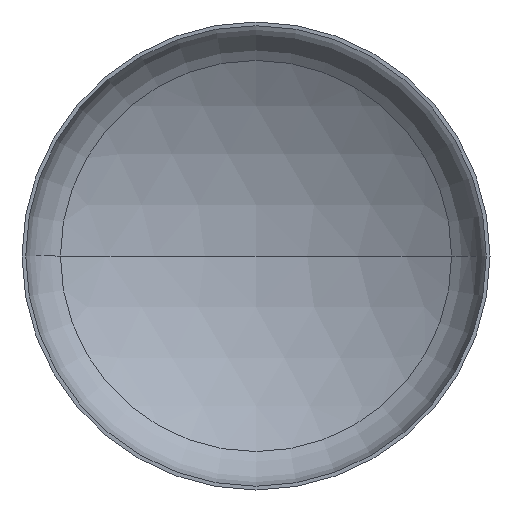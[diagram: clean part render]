
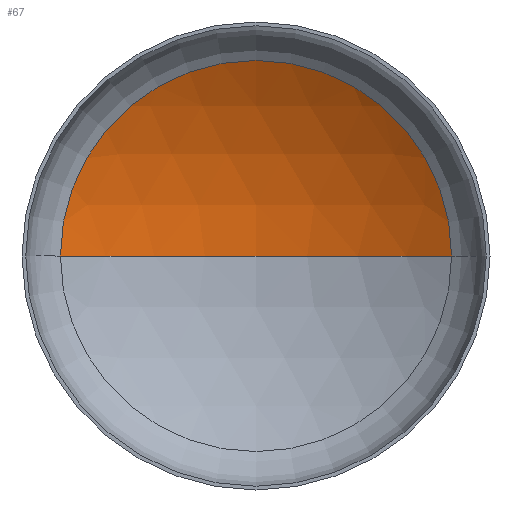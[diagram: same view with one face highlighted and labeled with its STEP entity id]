
A CAD part, front view. The second image highlights one B-rep face of the part: STEP entity #67.
In plain terms, the highlighted spherical face has radius 1600 mm.
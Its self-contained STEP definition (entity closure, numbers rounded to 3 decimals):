
#6 = VERTEX_POINT ( 'NONE', #275 ) ;
#16 = EDGE_LOOP ( 'NONE', ( #108, #59, #27 ) ) ;
#17 = VERTEX_POINT ( 'NONE', #252 ) ;
#27 = ORIENTED_EDGE ( 'NONE', *, *, #347, .T. ) ;
#38 = AXIS2_PLACEMENT_3D ( 'NONE', #363, #311, #153 ) ;
#59 = ORIENTED_EDGE ( 'NONE', *, *, #388, .T. ) ;
#61 = VERTEX_POINT ( 'NONE', #260 ) ;
#67 = ADVANCED_FACE ( 'NONE', ( #148 ), #286, .F. ) ;
#108 = ORIENTED_EDGE ( 'NONE', *, *, #383, .F. ) ;
#136 = CIRCLE ( 'NONE', #381, 1600. ) ;
#137 = AXIS2_PLACEMENT_3D ( 'NONE', #240, #239, #237 ) ;
#148 = FACE_OUTER_BOUND ( 'NONE', #16, .T. ) ;
#153 = DIRECTION ( 'NONE',  ( 1., 0., 0. ) ) ;
#159 = CARTESIAN_POINT ( 'NONE',  ( 0., -1044.92, 0. ) ) ;
#190 = DIRECTION ( 'NONE',  ( -1., 0., 0. ) ) ;
#237 = DIRECTION ( 'NONE',  ( -1., 0., 0. ) ) ;
#239 = DIRECTION ( 'NONE',  ( 0., 0., -1. ) ) ;
#240 = CARTESIAN_POINT ( 'NONE',  ( 0., -1044.92, 0. ) ) ;
#252 = CARTESIAN_POINT ( 'NONE',  ( -835.969, 319.322, 0. ) ) ;
#260 = CARTESIAN_POINT ( 'NONE',  ( 835.969, 319.322, 0. ) ) ;
#268 = DIRECTION ( 'NONE',  ( 0., 0., 1. ) ) ;
#275 = CARTESIAN_POINT ( 'NONE',  ( 0., 555.08, 0. ) ) ;
#286 = SPHERICAL_SURFACE ( 'NONE', #137, 1600. ) ;
#304 = CIRCLE ( 'NONE', #38, 835.969 ) ;
#311 = DIRECTION ( 'NONE',  ( 0., -1., 0. ) ) ;
#338 = AXIS2_PLACEMENT_3D ( 'NONE', #406, #268, #364 ) ;
#339 = DIRECTION ( 'NONE',  ( 0., 0., -1. ) ) ;
#347 = EDGE_CURVE ( 'NONE', #61, #17, #304, .T. ) ;
#363 = CARTESIAN_POINT ( 'NONE',  ( 0., 319.322, 0. ) ) ;
#364 = DIRECTION ( 'NONE',  ( 1., 0., 0. ) ) ;
#381 = AXIS2_PLACEMENT_3D ( 'NONE', #159, #339, #190 ) ;
#383 = EDGE_CURVE ( 'NONE', #6, #17, #405, .T. ) ;
#388 = EDGE_CURVE ( 'NONE', #6, #61, #136, .T. ) ;
#405 = CIRCLE ( 'NONE', #338, 1600. ) ;
#406 = CARTESIAN_POINT ( 'NONE',  ( 0., -1044.92, 0. ) ) ;
